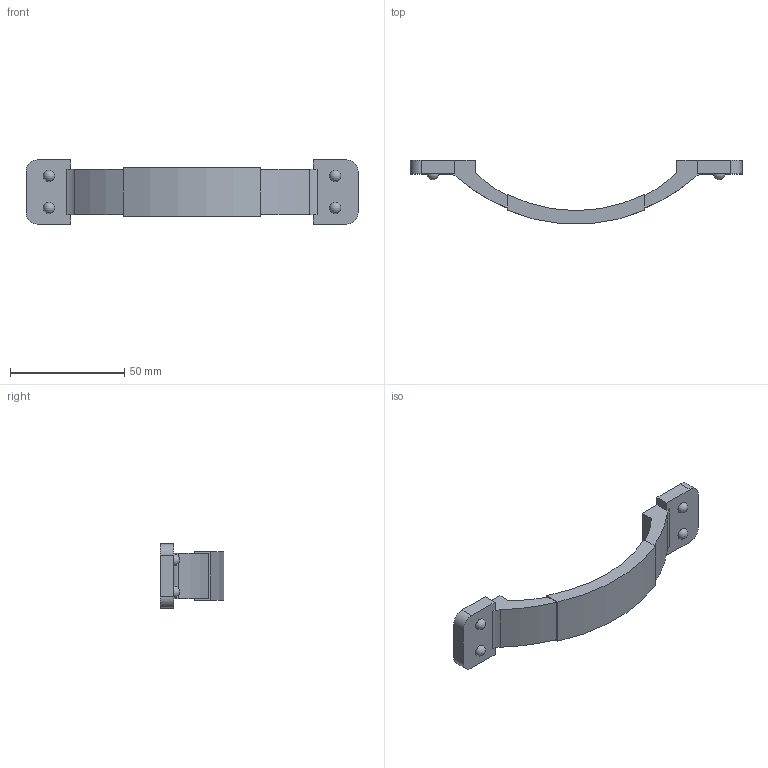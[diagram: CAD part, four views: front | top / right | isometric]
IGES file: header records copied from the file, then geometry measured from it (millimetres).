
Start section: Data from Parasolid IGES Translator 15.0.47, Copyright(c) 2006 Siemens P LM Software. All Rights Reserved.
Global section: file name: 9071716.igs; native system:  By UGS Corp.; preprocessor: XPlus GENERIC/IGES 3.0; author: Noname; organization: Noname; date: 20140122.104415; units: millimetre
Bounding box: 145 x 27.75 x 28 mm (x, y, z)
Surface area: 9850.6 mm2 (no closed solid volume)
Topology: 0 solids, 0 shells, 44 faces, 224 edges, 214 vertices
Faces by surface type: extrusion 26, revolution 18
